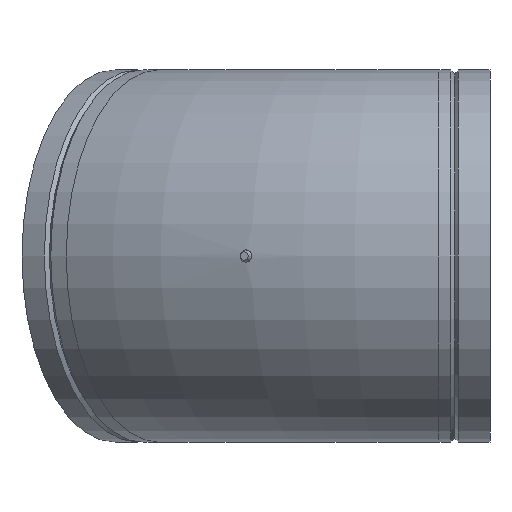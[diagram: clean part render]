
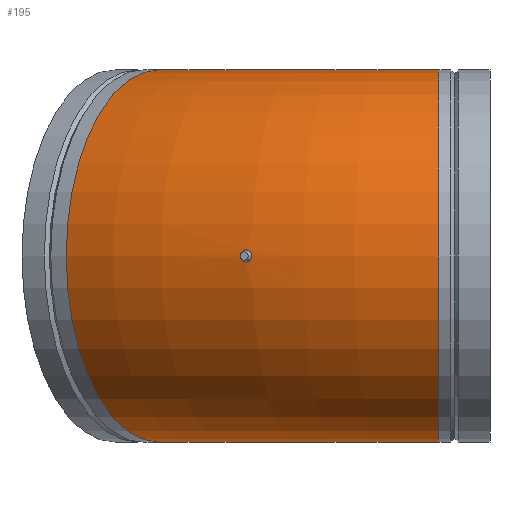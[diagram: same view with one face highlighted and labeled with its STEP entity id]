
A CAD part, left-side view. The second image highlights one B-rep face of the part: STEP entity #195.
In plain terms, the highlighted toroidal (fillet/blend) face has major radius 473 mm and minor radius 157.5 mm.
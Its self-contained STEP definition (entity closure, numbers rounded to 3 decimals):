
#13=TOROIDAL_SURFACE($,#222,473.,157.5);
#28=FACE_BOUND($,#82,.T.);
#29=FACE_BOUND($,#83,.T.);
#45=CIRCLE($,#216,157.5);
#47=CIRCLE($,#219,157.5);
#62=FACE_OUTER_BOUND($,#81,.T.);
#81=EDGE_LOOP($,(#146));
#82=EDGE_LOOP($,(#147));
#83=EDGE_LOOP($,(#148));
#102=B_SPLINE_CURVE_WITH_KNOTS($,3,(#306,#307,#308,#309,#310,#311,#312,
#313,#314,#315,#316,#317,#318,#319,#320,#321,#322,#323,#324,#325,#326,#327,
#328,#329,#330,#331,#332,#333,#334,#335,#336,#337,#338,#339,#340,#341,#342,
#343,#344,#345,#346,#347,#348,#349,#350,#351),.UNSPECIFIED.,.T.,.F.,(4,
2,2,2,2,2,2,2,2,2,2,2,2,2,2,2,2,2,2,2,2,2,4),(-3.226,-3.213,
-3.143,-3.038,-2.839,-2.639,
-2.436,-2.244,-2.062,-1.858,
-1.728,-1.645,-1.571,-1.485,
-1.342,-1.145,-0.943,-0.744,
-0.556,-0.379,-0.179,-0.076,
0.),.UNSPECIFIED.);
#103=VERTEX_POINT($,#305);
#108=VERTEX_POINT($,#363);
#110=VERTEX_POINT($,#368);
#119=EDGE_CURVE($,#103,#103,#102,.T.);
#124=EDGE_CURVE($,#108,#108,#45,.T.);
#126=EDGE_CURVE($,#110,#110,#47,.T.);
#146=ORIENTED_EDGE($,*,*,#124,.F.);
#147=ORIENTED_EDGE($,*,*,#119,.T.);
#148=ORIENTED_EDGE($,*,*,#126,.T.);
#195=ADVANCED_FACE($,(#62,#28,#29),#13,.T.);
#216=AXIS2_PLACEMENT_3D($,#364,#257,#258);
#219=AXIS2_PLACEMENT_3D($,#369,#263,#264);
#222=AXIS2_PLACEMENT_3D($,#373,#269,#270);
#257=DIRECTION('center_axis',(0.,-1.,0.));
#258=DIRECTION('ref_axis',(1.,0.,0.));
#263=DIRECTION('center_axis',(-0.5,-0.866,0.));
#264=DIRECTION('ref_axis',(0.866,-0.5,0.));
#269=DIRECTION('center_axis',(0.,0.,-1.));
#270=DIRECTION('ref_axis',(-1.,0.,0.));
#305=CARTESIAN_POINT('',(-134.673,211.379,0.));
#306=CARTESIAN_POINT('Ctrl Pts',(-134.673,211.379,0.));
#307=CARTESIAN_POINT('Ctrl Pts',(-134.673,211.379,0.045));
#308=CARTESIAN_POINT('Ctrl Pts',(-134.673,211.379,0.091));
#309=CARTESIAN_POINT('Ctrl Pts',(-134.675,211.371,0.367));
#310=CARTESIAN_POINT('Ctrl Pts',(-134.68,211.35,0.597));
#311=CARTESIAN_POINT('Ctrl Pts',(-134.702,211.26,1.17));
#312=CARTESIAN_POINT('Ctrl Pts',(-134.723,211.171,1.51));
#313=CARTESIAN_POINT('Ctrl Pts',(-134.809,210.819,2.457));
#314=CARTESIAN_POINT('Ctrl Pts',(-134.893,210.474,3.026));
#315=CARTESIAN_POINT('Ctrl Pts',(-135.113,209.591,3.999));
#316=CARTESIAN_POINT('Ctrl Pts',(-135.247,209.06,4.393));
#317=CARTESIAN_POINT('Ctrl Pts',(-135.551,207.877,4.95));
#318=CARTESIAN_POINT('Ctrl Pts',(-135.719,207.235,5.106));
#319=CARTESIAN_POINT('Ctrl Pts',(-136.058,205.964,5.148));
#320=CARTESIAN_POINT('Ctrl Pts',(-136.226,205.348,5.048));
#321=CARTESIAN_POINT('Ctrl Pts',(-136.539,204.217,4.628));
#322=CARTESIAN_POINT('Ctrl Pts',(-136.682,203.708,4.324));
#323=CARTESIAN_POINT('Ctrl Pts',(-136.952,202.761,3.499));
#324=CARTESIAN_POINT('Ctrl Pts',(-137.072,202.349,2.962));
#325=CARTESIAN_POINT('Ctrl Pts',(-137.215,201.859,1.971));
#326=CARTESIAN_POINT('Ctrl Pts',(-137.257,201.715,1.561));
#327=CARTESIAN_POINT('Ctrl Pts',(-137.301,201.564,0.867));
#328=CARTESIAN_POINT('Ctrl Pts',(-137.312,201.527,0.591));
#329=CARTESIAN_POINT('Ctrl Pts',(-137.321,201.496,0.071));
#330=CARTESIAN_POINT('Ctrl Pts',(-137.32,201.498,-0.174));
#331=CARTESIAN_POINT('Ctrl Pts',(-137.308,201.54,-0.706));
#332=CARTESIAN_POINT('Ctrl Pts',(-137.295,201.586,-0.991));
#333=CARTESIAN_POINT('Ctrl Pts',(-137.241,201.767,-1.733));
#334=CARTESIAN_POINT('Ctrl Pts',(-137.19,201.941,-2.176));
#335=CARTESIAN_POINT('Ctrl Pts',(-137.031,202.488,-3.154));
#336=CARTESIAN_POINT('Ctrl Pts',(-136.911,202.906,-3.652));
#337=CARTESIAN_POINT('Ctrl Pts',(-136.624,203.915,-4.467));
#338=CARTESIAN_POINT('Ctrl Pts',(-136.46,204.499,-4.771));
#339=CARTESIAN_POINT('Ctrl Pts',(-136.118,205.743,-5.125));
#340=CARTESIAN_POINT('Ctrl Pts',(-135.944,206.389,-5.173));
#341=CARTESIAN_POINT('Ctrl Pts',(-135.616,207.628,-5.015));
#342=CARTESIAN_POINT('Ctrl Pts',(-135.465,208.21,-4.825));
#343=CARTESIAN_POINT('Ctrl Pts',(-135.199,209.251,-4.252));
#344=CARTESIAN_POINT('Ctrl Pts',(-135.084,209.706,-3.885));
#345=CARTESIAN_POINT('Ctrl Pts',(-134.881,210.524,-2.953));
#346=CARTESIAN_POINT('Ctrl Pts',(-134.799,210.86,-2.377));
#347=CARTESIAN_POINT('Ctrl Pts',(-134.718,211.194,-1.429));
#348=CARTESIAN_POINT('Ctrl Pts',(-134.698,211.276,-1.096));
#349=CARTESIAN_POINT('Ctrl Pts',(-134.677,211.361,-0.506));
#350=CARTESIAN_POINT('Ctrl Pts',(-134.673,211.379,-0.253));
#351=CARTESIAN_POINT('Ctrl Pts',(-134.673,211.379,0.));
#363=CARTESIAN_POINT('',(-157.5,43.26,0.));
#364=CARTESIAN_POINT('Origin',(0.,43.26,0.));
#368=CARTESIAN_POINT('',(-73.029,358.51,0.));
#369=CARTESIAN_POINT('Origin',(63.37,279.76,0.));
#373=CARTESIAN_POINT('Origin',(473.,43.26,0.));
